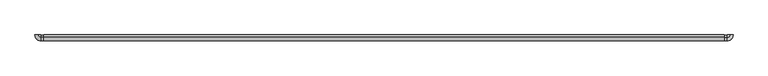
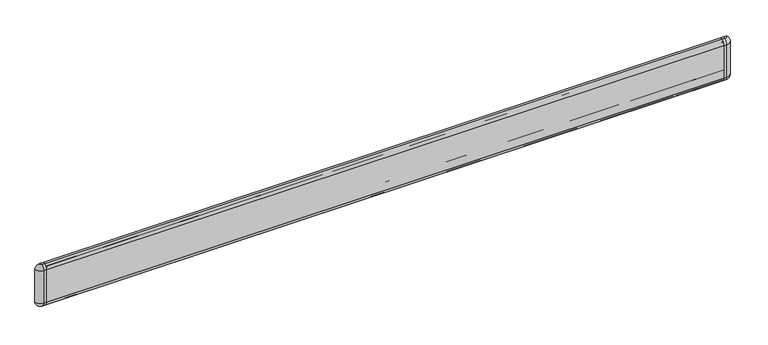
"""IFC4 building model written with IfcOpenShell, lengths in millimetres: railing geometry, Wall Guard-InPro-700-WG-Concrete."""

from ifc_helpers import new_model, si_unit, point, frame, origin, place, context, project, spatial, polyline, circle_curve, ellipse_curve, trimmed, source, transform, mapped, element, save
from ifc_brep_helpers import plane_surface, cylinder_surface, revolved_surface, advanced_brep


def railing_e686fe90(model_context):
    return source(origin(), model_context, "Body", "AdvancedBrep", [
        advanced_brep(
        [(-27364.509124, 14388.7263585, 904.7332938), (-27364.509124, 14390.7107335, 904.7332938), (-27364.509124, 14390.7107335, 727.2167062), (-27364.509124, 14388.7263585, 727.2167062), (-27364.509124, 14388.7263585, 720.2234269), (-27364.509124, 14371.963322, 726.6313462), (-27364.509124, 14373.2976795, 727.7904292), (-27364.509124, 14386.7419835, 721.9979037), (-27364.509124, 14386.7419835, 729.2010812), (-27364.509124, 14388.7263585, 729.2010812), (-27364.509124, 14388.7263585, 772.4962957), (-27364.509124, 14385.0706379, 772.4962957), (-27364.509124, 14385.0706379, 768.4007777), (-27364.509124, 14383.4109872, 768.4007777), (-27364.509124, 14383.4109872, 774.4806707), (-27364.509124, 14388.6724751, 774.4806707), (-27364.509124, 14388.6724751, 858.6025126), (-27364.509124, 14383.4109872, 858.6025126), (-27364.509124, 14383.4109872, 864.6280153), (-27364.509124, 14385.0706379, 864.6280153), (-27364.509124, 14385.0706379, 860.5868876), (-27364.509124, 14388.7263585, 860.5868876), (-27364.509124, 14388.7263585, 902.7489188), (-27364.509124, 14386.7419835, 902.7489188), (-27364.509124, 14386.7419835, 909.9520963), (-27364.509124, 14373.2976795, 904.1595708), (-27364.509124, 14371.963322, 905.3186537), (-27364.509124, 14388.7263585, 911.726573), (-24341.909124, 14388.7263585, 904.7332938), (-24341.909124, 14388.7263585, 911.726573), (-24341.909124, 14371.963322, 905.3186537), (-24341.909124, 14373.2976795, 904.1595708), (-24341.909124, 14386.7419835, 909.9520963), (-24341.909124, 14386.7419835, 902.7489188), (-24341.909124, 14388.7263585, 902.7489188), (-24341.909124, 14388.7263585, 860.5868876), (-24341.909124, 14385.0706379, 860.5868876), (-24341.909124, 14385.0706379, 864.6280153), (-24341.909124, 14383.4109872, 864.6280153), (-24341.909124, 14383.4109872, 858.6025126), (-24341.909124, 14388.6724751, 858.6025126), (-24341.909124, 14388.6724751, 774.4806707), (-24341.909124, 14383.4109872, 774.4806707), (-24341.909124, 14383.4109872, 768.4007777), (-24341.909124, 14385.0706379, 768.4007777), (-24341.909124, 14385.0706379, 772.4962957), (-24341.909124, 14388.7263585, 772.4962957), (-24341.909124, 14388.7263585, 729.2010812), (-24341.909124, 14386.7419835, 729.2010812), (-24341.909124, 14386.7419835, 721.9979037), (-24341.909124, 14373.2976795, 727.7904292), (-24341.909124, 14371.963322, 726.6313462), (-24341.909124, 14388.7263585, 720.2234269), (-24341.909124, 14388.7263585, 727.2167062), (-24341.909124, 14390.7107335, 727.2167062), (-24341.909124, 14390.7107335, 904.7332938)],
        [
            (0, 1),
            (1, 2),
            (2, 3),
            (3, 4),
            (4, 5, circle_curve(frame((-27364.509124, 14386.3451085, 739.1240129), z_axis=(-1.0, 0.0, 0.0), x_axis=(0.0, -1.0, 0.0)), 19.05)),
            (5, 6),
            (6, 7, circle_curve(frame((-27364.509124, 14386.7647006, 740.5488356), z_axis=(1.0, 0.0, 0.0), x_axis=(0.0, -1.0, 0.0)), 18.5509458)),
            (7, 8),
            (8, 9),
            (9, 10),
            (10, 11),
            (11, 12),
            (12, 13),
            (13, 14),
            (14, 15),
            (15, 16),
            (16, 17),
            (17, 18),
            (18, 19),
            (19, 20),
            (20, 21),
            (21, 22),
            (22, 23),
            (23, 24),
            (24, 25, circle_curve(frame((-27364.509124, 14386.7647006, 891.4011644), z_axis=(1.0, 0.0, 0.0), x_axis=(0.0, -1.0, 0.0)), 18.5509458)),
            (25, 26),
            (26, 27, circle_curve(frame((-27364.509124, 14386.3451085, 892.8259871), z_axis=(-1.0, 0.0, 0.0), x_axis=(0.0, -1.0, 0.0)), 19.05)),
            (27, 0),
            (28, 29),
            (29, 30, circle_curve(frame((-24341.909124, 14386.3451085, 892.8259871), z_axis=(1.0, 0.0, 0.0), x_axis=(0.0, -1.0, 0.0)), 19.05)),
            (30, 31),
            (31, 32, circle_curve(frame((-24341.909124, 14386.7647006, 891.4011644), z_axis=(-1.0, 0.0, 0.0), x_axis=(0.0, -1.0, 0.0)), 18.5509458)),
            (32, 33),
            (33, 34),
            (34, 35),
            (35, 36),
            (36, 37),
            (37, 38),
            (38, 39),
            (39, 40),
            (40, 41),
            (41, 42),
            (42, 43),
            (43, 44),
            (44, 45),
            (45, 46),
            (46, 47),
            (47, 48),
            (48, 49),
            (49, 50, circle_curve(frame((-24341.909124, 14386.7647006, 740.5488356), z_axis=(-1.0, 0.0, 0.0), x_axis=(0.0, -1.0, 0.0)), 18.5509458)),
            (50, 51),
            (51, 52, circle_curve(frame((-24341.909124, 14386.3451085, 739.1240129), z_axis=(1.0, 0.0, 0.0), x_axis=(0.0, -1.0, 0.0)), 19.05)),
            (52, 53),
            (53, 54),
            (54, 55),
            (55, 28),
            (0, 28),
            (55, 1),
            (54, 2),
            (53, 3),
            (52, 4),
            (51, 5),
            (50, 6),
            (49, 7),
            (48, 8),
            (47, 9),
            (46, 10),
            (45, 11),
            (44, 12),
            (43, 13),
            (42, 14),
            (41, 15),
            (40, 16),
            (39, 17),
            (38, 18),
            (37, 19),
            (36, 20),
            (35, 21),
            (34, 22),
            (33, 23),
            (32, 24),
            (31, 25),
            (30, 26),
            (29, 27),
        ],
        [
            plane_surface(frame((-27364.509124, 14390.7107335, 914.4), z_axis=(-1.0, 0.0, 0.0), x_axis=(0.0, 1.0, 0.0))),
            plane_surface(frame((-24341.909124, 14390.7107335, 914.4), z_axis=(1.0, 0.0, 0.0), x_axis=(0.0, 1.0, 0.0))),
            plane_surface(frame((-27364.509124, 14388.7263585, 904.7332938), z_axis=(0.0, 0.0, 1.0), x_axis=(1.0, 0.0, 0.0))),
            plane_surface(frame((-27364.509124, 14390.7107335, 904.7332938), z_axis=(0.0, 1.0, 0.0), x_axis=(1.0, 0.0, 0.0))),
            plane_surface(frame((-27364.509124, 14390.7107335, 727.2167062), z_axis=(0.0, 0.0, -1.0), x_axis=(1.0, 0.0, 0.0))),
            plane_surface(frame((-27364.509124, 14388.7263585, 727.2167062), z_axis=(0.0, 1.0, 0.0), x_axis=(1.0, 0.0, 0.0))),
            cylinder_surface(frame((-27364.509124, 14386.3451085, 739.1240129), z_axis=(-1.0, 0.0, 0.0), x_axis=(0.0, -1.0, 0.0)), 19.05),
            plane_surface(frame((-27364.509124, 14371.963322, 726.6313462), z_axis=(0.0, -0.6557830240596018, 0.7549494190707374), x_axis=(1.0, 0.0, 0.0))),
            revolved_surface(polyline([(-24341.909124, 14368.213754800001, 740.5488356), (-27364.509124, 14368.213754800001, 740.5488356)]), (-27364.509124, 14386.7647006, 740.5488356), (1.0, 0.0, 0.0)),
            plane_surface(frame((-27364.509124, 14386.7419835, 721.9979037), z_axis=(0.0, -1.0, 0.0), x_axis=(1.0, 0.0, 0.0))),
            plane_surface(frame((-27364.509124, 14386.7419835, 729.2010812), z_axis=(0.0, 0.0, 1.0), x_axis=(1.0, 0.0, 0.0))),
            plane_surface(frame((-27364.509124, 14388.7263585, 729.2010812), z_axis=(0.0, -1.0, 0.0), x_axis=(1.0, 0.0, 0.0))),
            plane_surface(frame((-27364.509124, 14388.7263585, 772.4962957), z_axis=(0.0, 0.0, -1.0), x_axis=(1.0, 0.0, 0.0))),
            plane_surface(frame((-27364.509124, 14385.0706379, 772.4962957), z_axis=(0.0, 1.0, 0.0), x_axis=(1.0, 0.0, 0.0))),
            plane_surface(frame((-27364.509124, 14385.0706379, 768.4007777), z_axis=(0.0, 0.0, -1.0), x_axis=(1.0, 0.0, 0.0))),
            plane_surface(frame((-27364.509124, 14383.4109872, 768.4007777), z_axis=(0.0, -1.0, 0.0), x_axis=(1.0, 0.0, 0.0))),
            plane_surface(frame((-27364.509124, 14383.4109872, 774.4806707), z_axis=(0.0, 0.0, 1.0), x_axis=(1.0, 0.0, 0.0))),
            plane_surface(frame((-27364.509124, 14388.6724751, 774.4806707), z_axis=(0.0, -1.0, 0.0), x_axis=(1.0, 0.0, 0.0))),
            plane_surface(frame((-27364.509124, 14388.6724751, 858.6025126), z_axis=(0.0, 0.0, -1.0), x_axis=(1.0, 0.0, 0.0))),
            plane_surface(frame((-27364.509124, 14383.4109872, 858.6025126), z_axis=(0.0, -1.0, 0.0), x_axis=(1.0, 0.0, 0.0))),
            plane_surface(frame((-27364.509124, 14383.4109872, 864.6280153), z_axis=(0.0, 0.0, 1.0), x_axis=(1.0, 0.0, 0.0))),
            plane_surface(frame((-27364.509124, 14385.0706379, 864.6280153), z_axis=(0.0, 1.0, 0.0), x_axis=(1.0, 0.0, 0.0))),
            plane_surface(frame((-27364.509124, 14385.0706379, 860.5868876), z_axis=(0.0, 0.0, 1.0), x_axis=(1.0, 0.0, 0.0))),
            plane_surface(frame((-27364.509124, 14388.7263585, 860.5868876), z_axis=(0.0, -1.0, 0.0), x_axis=(1.0, 0.0, 0.0))),
            plane_surface(frame((-27364.509124, 14388.7263585, 902.7489188), z_axis=(0.0, 0.0, -1.0), x_axis=(1.0, 0.0, 0.0))),
            plane_surface(frame((-27364.509124, 14386.7419835, 902.7489188), z_axis=(0.0, -1.0, 0.0), x_axis=(1.0, 0.0, 0.0))),
            revolved_surface(polyline([(-24341.909124, 14368.213754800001, 891.4011644), (-27364.509124, 14368.213754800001, 891.4011644)]), (-27364.509124, 14386.7647006, 891.4011644), (1.0, 0.0, 0.0)),
            plane_surface(frame((-27364.509124, 14373.2976795, 904.1595708), z_axis=(0.0, -0.6557830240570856, -0.754949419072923), x_axis=(1.0, 0.0, 0.0))),
            cylinder_surface(frame((-27364.509124, 14386.3451085, 892.8259871), z_axis=(-1.0, 0.0, 0.0), x_axis=(0.0, -1.0, 0.0)), 19.05),
            plane_surface(frame((-27364.509124, 14388.7263585, 911.726573), z_axis=(0.0, 1.0, 0.0), x_axis=(1.0, 0.0, 0.0))),
        ],
        [
            (0, [[1, 2, 3, 4, 5, 6, 7, 8, 9, 10, 11, 12, 13, 14, 15, 16, 17, 18, 19, 20, 21, 22, 23, 24, 25, 26, 27, 28]]),
            (1, [[29, 30, 31, 32, 33, 34, 35, 36, 37, 38, 39, 40, 41, 42, 43, 44, 45, 46, 47, 48, 49, 50, 51, 52, 53, 54, 55, 56]]),
            (2, [[-1, 57, -56, 58]]),
            (3, [[-2, -58, -55, 59]]),
            (4, [[-3, -59, -54, 60]]),
            (5, [[-4, -60, -53, 61]]),
            (6, [[-5, -61, -52, 62]]),
            (7, [[-6, -62, -51, 63]]),
            (8, [[-7, -63, -50, 64]]),
            (9, [[-8, -64, -49, 65]]),
            (10, [[-9, -65, -48, 66]]),
            (11, [[-10, -66, -47, 67]]),
            (12, [[-11, -67, -46, 68]]),
            (13, [[-12, -68, -45, 69]]),
            (14, [[-13, -69, -44, 70]]),
            (15, [[-14, -70, -43, 71]]),
            (16, [[-15, -71, -42, 72]]),
            (17, [[-16, -72, -41, 73]]),
            (18, [[-17, -73, -40, 74]]),
            (19, [[-18, -74, -39, 75]]),
            (20, [[-19, -75, -38, 76]]),
            (21, [[-20, -76, -37, 77]]),
            (22, [[-21, -77, -36, 78]]),
            (23, [[-22, -78, -35, 79]]),
            (24, [[-23, -79, -34, 80]]),
            (25, [[-24, -80, -33, 81]]),
            (26, [[-25, -81, -32, 82]]),
            (27, [[-26, -82, -31, 83]]),
            (28, [[-27, -83, -30, 84]]),
            (29, [[-28, -84, -29, -57]]),
        ],
    ),
        advanced_brep(
        [(-27364.509124, 14384.5191525, 865.3953096), (-27364.509124, 14369.2282976, 847.8484287), (-27364.509124, 14369.2282976, 785.2347547), (-27364.509124, 14383.1181212, 767.7077342), (-27364.509124, 14384.564088, 767.6994357), (-27364.509124, 14385.3623933, 768.4931726), (-27364.509124, 14385.3623933, 772.40608), (-27364.509124, 14387.0550129, 772.40608), (-27364.509124, 14387.0550129, 766.4513754), (-27364.509124, 14386.3886739, 765.7415917), (-27364.509124, 14383.0482703, 765.7415917), (-27364.509124, 14367.2540073, 784.5100726), (-27364.509124, 14367.2540073, 848.5731108), (-27364.509124, 14383.0482703, 867.3415917), (-27364.509124, 14386.3886737, 867.3415917), (-27364.509124, 14387.0550129, 866.6318079), (-27364.509124, 14387.0550129, 860.6771034), (-27364.509124, 14385.3623933, 860.6771034), (-27364.509124, 14385.3623933, 864.603104), (-24341.909124, 14384.5191525, 865.3953096), (-24341.909124, 14385.3623933, 864.603104), (-24341.909124, 14385.3623933, 860.6771034), (-24341.909124, 14387.0550129, 860.6771034), (-24341.909124, 14387.0550129, 866.6318079), (-24341.909124, 14386.3886737, 867.3415917), (-24341.909124, 14383.0482703, 867.3415917), (-24341.909124, 14367.2540073, 848.5731108), (-24341.909124, 14367.2540073, 784.5100726), (-24341.909124, 14383.0482703, 765.7415917), (-24341.909124, 14386.3886739, 765.7415917), (-24341.909124, 14387.0550129, 766.4513754), (-24341.909124, 14387.0550129, 772.40608), (-24341.909124, 14385.3623933, 772.40608), (-24341.909124, 14385.3623933, 768.4931726), (-24341.909124, 14384.564088, 767.6994357), (-24341.909124, 14383.1181212, 767.7077342), (-24341.909124, 14369.2282976, 785.2347547), (-24341.909124, 14369.2282976, 847.8484287)],
        [
            (0, 1, circle_curve(frame((-27364.509124, 14385.5389853, 849.070713), z_axis=(1.0, 0.0, 0.0), x_axis=(0.0, -1.0, 0.0)), 16.3564211)),
            (1, 2),
            (2, 3, circle_curve(frame((-27364.509124, 14385.7856433, 784.0889117), z_axis=(1.0, 0.0, 0.0), x_axis=(0.0, -1.0, 0.0)), 16.596947)),
            (3, 4),
            (4, 5, circle_curve(frame((-27364.509124, 14384.5686433, 768.4931726), z_axis=(1.0, 0.0, 0.0), x_axis=(0.0, -1.0, 0.0)), 0.79375)),
            (5, 6),
            (6, 7),
            (7, 8),
            (8, 9, circle_curve(frame((-27364.509124, 14386.3438129, 766.4513754), z_axis=(-1.0, 0.0, 0.0), x_axis=(0.0, -1.0, 0.0)), 0.7112)),
            (9, 10),
            (10, 11, circle_curve(frame((-27364.509124, 14385.5987975, 783.9178633), z_axis=(-1.0, 0.0, 0.0), x_axis=(0.0, -1.0, 0.0)), 18.3543466)),
            (11, 12),
            (12, 13, circle_curve(frame((-27364.509124, 14385.5987975, 849.1653201), z_axis=(-1.0, 0.0, 0.0), x_axis=(0.0, -1.0, 0.0)), 18.3543466)),
            (13, 14),
            (14, 15, circle_curve(frame((-27364.509124, 14386.3438129, 866.6318079), z_axis=(-1.0, 0.0, 0.0), x_axis=(0.0, -1.0, 0.0)), 0.7112)),
            (15, 16),
            (16, 17),
            (17, 18),
            (18, 0, circle_curve(frame((-27364.509124, 14384.5686433, 864.603104), z_axis=(1.0, 0.0, 0.0), x_axis=(0.0, -1.0, 0.0)), 0.79375)),
            (19, 20, circle_curve(frame((-24341.909124, 14384.5686433, 864.603104), z_axis=(-1.0, 0.0, 0.0), x_axis=(0.0, -1.0, 0.0)), 0.79375)),
            (20, 21),
            (21, 22),
            (22, 23),
            (23, 24, circle_curve(frame((-24341.909124, 14386.3438129, 866.6318079), z_axis=(1.0, 0.0, 0.0), x_axis=(0.0, -1.0, 0.0)), 0.7112)),
            (24, 25),
            (25, 26, circle_curve(frame((-24341.909124, 14385.5987975, 849.1653201), z_axis=(1.0, 0.0, 0.0), x_axis=(0.0, -1.0, 0.0)), 18.3543466)),
            (26, 27),
            (27, 28, circle_curve(frame((-24341.909124, 14385.5987975, 783.9178633), z_axis=(1.0, 0.0, 0.0), x_axis=(0.0, -1.0, 0.0)), 18.3543466)),
            (28, 29),
            (29, 30, circle_curve(frame((-24341.909124, 14386.3438129, 766.4513754), z_axis=(1.0, 0.0, 0.0), x_axis=(0.0, -1.0, 0.0)), 0.7112)),
            (30, 31),
            (31, 32),
            (32, 33),
            (33, 34, circle_curve(frame((-24341.909124, 14384.5686433, 768.4931726), z_axis=(-1.0, 0.0, 0.0), x_axis=(0.0, -1.0, 0.0)), 0.79375)),
            (34, 35),
            (35, 36, circle_curve(frame((-24341.909124, 14385.7856433, 784.0889117), z_axis=(-1.0, 0.0, 0.0), x_axis=(0.0, -1.0, 0.0)), 16.596947)),
            (36, 37),
            (37, 19, circle_curve(frame((-24341.909124, 14385.5389853, 849.070713), z_axis=(-1.0, 0.0, 0.0), x_axis=(0.0, -1.0, 0.0)), 16.3564211)),
            (0, 19),
            (37, 1),
            (36, 2),
            (35, 3),
            (34, 4),
            (33, 5),
            (32, 6),
            (31, 7),
            (30, 8),
            (29, 9),
            (28, 10),
            (27, 11),
            (26, 12),
            (25, 13),
            (24, 14),
            (23, 15),
            (22, 16),
            (21, 17),
            (20, 18),
        ],
        [
            plane_surface(frame((-27364.509124, 14390.7107335, 914.4), z_axis=(-1.0, 0.0, 0.0), x_axis=(0.0, 1.0, 0.0))),
            plane_surface(frame((-24341.909124, 14390.7107335, 914.4), z_axis=(1.0, 0.0, 0.0), x_axis=(0.0, 1.0, 0.0))),
            revolved_surface(polyline([(-24341.909124, 14369.1825642, 849.070713), (-27364.509124, 14369.1825642, 849.070713)]), (-27364.509124, 14385.5389853, 849.070713), (1.0, 0.0, 0.0)),
            plane_surface(frame((-27364.509124, 14369.2282976, 847.8484287), z_axis=(0.0, 1.0, 0.0), x_axis=(1.0, 0.0, 0.0))),
            revolved_surface(polyline([(-24341.909124, 14369.1886963, 784.0889117), (-27364.509124, 14369.1886963, 784.0889117)]), (-27364.509124, 14385.7856433, 784.0889117), (1.0, 0.0, 0.0)),
            plane_surface(frame((-27364.509124, 14383.1181212, 767.7077342), z_axis=(0.0, 0.005738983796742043, 0.9999835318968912), x_axis=(1.0, 0.0, 0.0))),
            revolved_surface(polyline([(-24341.909124, 14383.774893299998, 768.4931726), (-27364.509124, 14383.774893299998, 768.4931726)]), (-27364.509124, 14384.5686433, 768.4931726), (1.0, 0.0, 0.0)),
            plane_surface(frame((-27364.509124, 14385.3623933, 768.4931726), z_axis=(0.0, -1.0, 0.0), x_axis=(1.0, 0.0, 0.0))),
            plane_surface(frame((-27364.509124, 14385.3623933, 772.40608), z_axis=(0.0, 0.0, 1.0), x_axis=(1.0, 0.0, 0.0))),
            plane_surface(frame((-27364.509124, 14387.0550129, 772.40608), z_axis=(0.0, 1.0, 0.0), x_axis=(1.0, 0.0, 0.0))),
            cylinder_surface(frame((-27364.509124, 14386.3438129, 766.4513754), z_axis=(-1.0, 0.0, 0.0), x_axis=(0.0, -1.0, 0.0)), 0.7112),
            plane_surface(frame((-27364.509124, 14386.3886739, 765.7415917), z_axis=(0.0, 0.0, -1.0), x_axis=(1.0, 0.0, 0.0))),
            cylinder_surface(frame((-27364.509124, 14385.5987975, 783.9178633), z_axis=(-1.0, 0.0, 0.0), x_axis=(0.0, -1.0, 0.0)), 18.3543466),
            plane_surface(frame((-27364.509124, 14367.2540073, 784.5100726), z_axis=(0.0, -1.0, 0.0), x_axis=(1.0, 0.0, 0.0))),
            cylinder_surface(frame((-27364.509124, 14385.5987975, 849.1653201), z_axis=(-1.0, 0.0, 0.0), x_axis=(0.0, -1.0, 0.0)), 18.3543466),
            plane_surface(frame((-27364.509124, 14383.0482703, 867.3415917), z_axis=(0.0, 0.0, 1.0), x_axis=(1.0, 0.0, 0.0))),
            cylinder_surface(frame((-27364.509124, 14386.3438129, 866.6318079), z_axis=(-1.0, 0.0, 0.0), x_axis=(0.0, -1.0, 0.0)), 0.7112),
            plane_surface(frame((-27364.509124, 14387.0550129, 866.6318079), z_axis=(0.0, 1.0, 0.0), x_axis=(1.0, 0.0, 0.0))),
            plane_surface(frame((-27364.509124, 14387.0550129, 860.6771034), z_axis=(0.0, 0.0, -1.0), x_axis=(1.0, 0.0, 0.0))),
            plane_surface(frame((-27364.509124, 14385.3623933, 860.6771034), z_axis=(0.0, -1.0, 0.0), x_axis=(1.0, 0.0, 0.0))),
            revolved_surface(polyline([(-24341.909124, 14383.774893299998, 864.603104), (-27364.509124, 14383.774893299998, 864.603104)]), (-27364.509124, 14384.5686433, 864.603104), (1.0, 0.0, 0.0)),
        ],
        [
            (0, [[1, 2, 3, 4, 5, 6, 7, 8, 9, 10, 11, 12, 13, 14, 15, 16, 17, 18, 19]]),
            (1, [[20, 21, 22, 23, 24, 25, 26, 27, 28, 29, 30, 31, 32, 33, 34, 35, 36, 37, 38]]),
            (2, [[-1, 39, -38, 40]]),
            (3, [[-2, -40, -37, 41]]),
            (4, [[-3, -41, -36, 42]]),
            (5, [[-4, -42, -35, 43]]),
            (6, [[-5, -43, -34, 44]]),
            (7, [[-6, -44, -33, 45]]),
            (8, [[-7, -45, -32, 46]]),
            (9, [[-8, -46, -31, 47]]),
            (10, [[-9, -47, -30, 48]]),
            (11, [[-10, -48, -29, 49]]),
            (12, [[-11, -49, -28, 50]]),
            (13, [[-12, -50, -27, 51]]),
            (14, [[-13, -51, -26, 52]]),
            (15, [[-14, -52, -25, 53]]),
            (16, [[-15, -53, -24, 54]]),
            (17, [[-16, -54, -23, 55]]),
            (18, [[-17, -55, -22, 56]]),
            (19, [[-18, -56, -21, 57]]),
            (20, [[-19, -57, -20, -39]]),
        ],
    ),
        advanced_brep(
        [(-27364.509124, 14380.4030525, 718.9463791), (-27364.509124, 14365.3107335, 739.1240129), (-27364.509124, 14365.3107335, 892.8259871), (-27364.509124, 14380.4030525, 913.0036208), (-27364.509124, 14390.7107335, 913.5724414), (-27364.509124, 14390.7107335, 908.6382347), (-27364.509124, 14388.7263585, 908.4646244), (-27364.509124, 14388.7263585, 911.8425758), (-27364.509124, 14380.9636238, 911.1000707), (-27364.509124, 14371.963322, 905.3186537), (-27364.509124, 14367.2951085, 892.8259871), (-27364.509124, 14367.2951085, 739.1240129), (-27364.509124, 14371.963322, 726.6313462), (-27364.509124, 14380.9636238, 720.8499295), (-27364.509124, 14388.7263585, 720.1074242), (-27364.509124, 14388.7263585, 723.4853755), (-27364.509124, 14390.7107335, 723.3117652), (-27364.509124, 14390.7107335, 718.3775586), (-24341.909124, 14380.4030525, 718.946379), (-24341.909124, 14390.7107335, 718.3775586), (-24341.909124, 14390.7107335, 723.3117652), (-24341.909124, 14388.7263585, 723.4853755), (-24341.909124, 14388.7263585, 720.1074242), (-24341.909124, 14380.9636238, 720.8499293), (-24341.909124, 14371.963322, 726.6313462), (-24341.909124, 14367.2951085, 739.1240129), (-24341.909124, 14367.2951085, 892.8259871), (-24341.909124, 14371.963322, 905.3186537), (-24341.909124, 14380.9636238, 911.1000705), (-24341.909124, 14388.7263585, 911.8425758), (-24341.909124, 14388.7263585, 908.4646244), (-24341.909124, 14390.7107335, 908.6382347), (-24341.909124, 14390.7107335, 913.5724414), (-24341.909124, 14380.4030525, 913.003621), (-24341.909124, 14365.3107335, 892.8259871), (-24341.909124, 14365.3107335, 739.1240129)],
        [
            (0, 1, circle_curve(frame((-27364.509124, 14386.3451085, 739.1240129), z_axis=(-1.0, 0.0, 0.0), x_axis=(0.0, -1.0, 0.0)), 21.034375)),
            (1, 2),
            (2, 3, circle_curve(frame((-27364.509124, 14386.3451085, 892.8259871), z_axis=(-1.0, 0.0, 0.0), x_axis=(0.0, -1.0, 0.0)), 21.034375)),
            (3, 4, circle_curve(frame((-27364.509124, 14386.7647006, 891.4011644), z_axis=(-1.0, 0.0, 0.0), x_axis=(0.0, -1.0, 0.0)), 22.5196958)),
            (4, 5),
            (5, 6),
            (6, 7),
            (7, 8, circle_curve(frame((-27364.509124, 14386.7647006, 891.4011644), z_axis=(1.0, 0.0, 0.0), x_axis=(0.0, -1.0, 0.0)), 20.5353208)),
            (8, 9, circle_curve(frame((-27364.509124, 14386.3451085, 892.8259871), z_axis=(1.0, 0.0, 0.0), x_axis=(0.0, -1.0, 0.0)), 19.05)),
            (9, 10, circle_curve(frame((-27364.509124, 14386.3451085, 892.8259871), z_axis=(1.0, 0.0, 0.0), x_axis=(0.0, -1.0, 0.0)), 19.05)),
            (10, 11),
            (11, 12, circle_curve(frame((-27364.509124, 14386.3451085, 739.1240129), z_axis=(1.0, 0.0, 0.0), x_axis=(0.0, -1.0, 0.0)), 19.05)),
            (12, 13, circle_curve(frame((-27364.509124, 14386.3451085, 739.1240129), z_axis=(1.0, 0.0, 0.0), x_axis=(0.0, -1.0, 0.0)), 19.05)),
            (13, 14, circle_curve(frame((-27364.509124, 14386.7647006, 740.5488356), z_axis=(1.0, 0.0, 0.0), x_axis=(0.0, -1.0, 0.0)), 20.5353208)),
            (14, 15),
            (15, 16),
            (16, 17),
            (17, 0, circle_curve(frame((-27364.509124, 14386.7647006, 740.5488356), z_axis=(-1.0, 0.0, 0.0), x_axis=(0.0, -1.0, 0.0)), 22.5196958)),
            (18, 19, circle_curve(frame((-24341.909124, 14386.7647006, 740.5488356), z_axis=(1.0, 0.0, 0.0), x_axis=(0.0, -1.0, 0.0)), 22.5196958)),
            (19, 20),
            (20, 21),
            (21, 22),
            (22, 23, circle_curve(frame((-24341.909124, 14386.7647006, 740.5488356), z_axis=(-1.0, 0.0, 0.0), x_axis=(0.0, -1.0, 0.0)), 20.5353208)),
            (23, 24, circle_curve(frame((-24341.909124, 14386.3451085, 739.1240129), z_axis=(-1.0, 0.0, 0.0), x_axis=(0.0, -1.0, 0.0)), 19.05)),
            (24, 25, circle_curve(frame((-24341.909124, 14386.3451085, 739.1240129), z_axis=(-1.0, 0.0, 0.0), x_axis=(0.0, -1.0, 0.0)), 19.05)),
            (25, 26),
            (26, 27, circle_curve(frame((-24341.909124, 14386.3451085, 892.8259871), z_axis=(-1.0, 0.0, 0.0), x_axis=(0.0, -1.0, 0.0)), 19.05)),
            (27, 28, circle_curve(frame((-24341.909124, 14386.3451085, 892.8259871), z_axis=(-1.0, 0.0, 0.0), x_axis=(0.0, -1.0, 0.0)), 19.05)),
            (28, 29, circle_curve(frame((-24341.909124, 14386.7647006, 891.4011644), z_axis=(-1.0, 0.0, 0.0), x_axis=(0.0, -1.0, 0.0)), 20.5353208)),
            (29, 30),
            (30, 31),
            (31, 32),
            (32, 33, circle_curve(frame((-24341.909124, 14386.7647006, 891.4011644), z_axis=(1.0, 0.0, 0.0), x_axis=(0.0, -1.0, 0.0)), 22.5196958)),
            (33, 34, circle_curve(frame((-24341.909124, 14386.3451085, 892.8259871), z_axis=(1.0, 0.0, 0.0), x_axis=(0.0, -1.0, 0.0)), 21.034375)),
            (34, 35),
            (35, 18, circle_curve(frame((-24341.909124, 14386.3451085, 739.1240129), z_axis=(1.0, 0.0, 0.0), x_axis=(0.0, -1.0, 0.0)), 21.034375)),
            (0, 18),
            (35, 1),
            (34, 2),
            (33, 3),
            (32, 4),
            (31, 5),
            (30, 6),
            (29, 7),
            (28, 8),
            (27, 9),
            (26, 10),
            (25, 11),
            (24, 12),
            (23, 13),
            (22, 14),
            (21, 15),
            (20, 16),
            (19, 17),
        ],
        [
            plane_surface(frame((-27364.509124, 14390.7107335, 914.4), z_axis=(-1.0, 0.0, 0.0), x_axis=(0.0, 1.0, 0.0))),
            plane_surface(frame((-24341.909124, 14390.7107335, 914.4), z_axis=(1.0, 0.0, 0.0), x_axis=(0.0, 1.0, 0.0))),
            cylinder_surface(frame((-27364.509124, 14386.3451085, 739.1240129), z_axis=(-1.0, 0.0, 0.0), x_axis=(0.0, -1.0, 0.0)), 21.034375),
            plane_surface(frame((-27364.509124, 14365.3107335, 739.1240129), z_axis=(0.0, -1.0, 0.0), x_axis=(1.0, 0.0, 0.0))),
            cylinder_surface(frame((-27364.509124, 14386.3451085, 892.8259871), z_axis=(-1.0, 0.0, 0.0), x_axis=(0.0, -1.0, 0.0)), 21.034375),
            cylinder_surface(frame((-27364.509124, 14386.7647006, 891.4011644), z_axis=(-1.0, 0.0, 0.0), x_axis=(0.0, -1.0, 0.0)), 22.5196958),
            plane_surface(frame((-27364.509124, 14390.7107335, 913.5724414), z_axis=(0.0, 1.0, 0.0), x_axis=(1.0, 0.0, 0.0))),
            plane_surface(frame((-27364.509124, 14390.7107335, 908.6382347), z_axis=(0.0, 0.08715574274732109, -0.9961946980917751), x_axis=(1.0, 0.0, 0.0))),
            plane_surface(frame((-27364.509124, 14388.7263585, 908.4646244), z_axis=(0.0, -1.0, 0.0), x_axis=(1.0, 0.0, 0.0))),
            revolved_surface(polyline([(-24341.909124, 14366.229379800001, 891.4011644), (-27364.509124, 14366.229379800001, 891.4011644)]), (-27364.509124, 14386.7647006, 891.4011644), (1.0, 0.0, 0.0)),
            revolved_surface(polyline([(-24341.909124, 14367.2951085, 892.8259871), (-27364.509124, 14367.2951085, 892.8259871)]), (-27364.509124, 14386.3451085, 892.8259871), (1.0, 0.0, 0.0)),
            plane_surface(frame((-27364.509124, 14367.2951085, 892.8259871), z_axis=(0.0, 1.0, 0.0), x_axis=(1.0, 0.0, 0.0))),
            revolved_surface(polyline([(-24341.909124, 14367.2951085, 739.1240129), (-27364.509124, 14367.2951085, 739.1240129)]), (-27364.509124, 14386.3451085, 739.1240129), (1.0, 0.0, 0.0)),
            revolved_surface(polyline([(-24341.909124, 14366.229379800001, 740.5488356), (-27364.509124, 14366.229379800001, 740.5488356)]), (-27364.509124, 14386.7647006, 740.5488356), (1.0, 0.0, 0.0)),
            plane_surface(frame((-27364.509124, 14388.7263585, 720.1074242), z_axis=(0.0, -1.0, 0.0), x_axis=(1.0, 0.0, 0.0))),
            plane_surface(frame((-27364.509124, 14388.7263585, 723.4853755), z_axis=(0.0, 0.08715574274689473, 0.9961946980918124), x_axis=(1.0, 0.0, 0.0))),
            plane_surface(frame((-27364.509124, 14390.7107335, 723.3117652), z_axis=(0.0, 1.0, 0.0), x_axis=(1.0, 0.0, 0.0))),
            cylinder_surface(frame((-27364.509124, 14386.7647006, 740.5488356), z_axis=(-1.0, 0.0, 0.0), x_axis=(0.0, -1.0, 0.0)), 22.5196958),
        ],
        [
            (0, [[1, 2, 3, 4, 5, 6, 7, 8, 9, 10, 11, 12, 13, 14, 15, 16, 17, 18]]),
            (1, [[19, 20, 21, 22, 23, 24, 25, 26, 27, 28, 29, 30, 31, 32, 33, 34, 35, 36]]),
            (2, [[-1, 37, -36, 38]]),
            (3, [[-2, -38, -35, 39]]),
            (4, [[-3, -39, -34, 40]]),
            (5, [[-4, -40, -33, 41]]),
            (6, [[-5, -41, -32, 42]]),
            (7, [[-6, -42, -31, 43]]),
            (8, [[-7, -43, -30, 44]]),
            (9, [[-8, -44, -29, 45]]),
            (10, [[-9, -45, -28, 46]]),
            (10, [[-10, -46, -27, 47]]),
            (11, [[-11, -47, -26, 48]]),
            (12, [[-12, -48, -25, 49]]),
            (12, [[-13, -49, -24, 50]]),
            (13, [[-14, -50, -23, 51]]),
            (14, [[-15, -51, -22, 52]]),
            (15, [[-16, -52, -21, 53]]),
            (16, [[-17, -53, -20, 54]]),
            (17, [[-18, -54, -19, -37]]),
        ],
    ),
        advanced_brep(
        [(-24327.7394675, 14390.7107335, 718.291713), (-24327.7394675, 14390.7107335, 913.6582866), (-24317.938695, 14390.7107335, 913.0006001), (-24302.856624, 14390.7107335, 892.8259871), (-24302.856624, 14390.7107335, 739.1240128), (-24317.9489431, 14390.7107335, 718.946379), (-24328.256624, 14390.193577, 913.6582866), (-24328.256624, 14390.193577, 718.291713), (-24328.256624, 14380.3928044, 913.0006001), (-24328.256624, 14365.3107335, 892.8259871), (-24328.256624, 14365.3107335, 739.1240128), (-24328.256624, 14380.4030525, 718.946379), (-24341.909124, 14390.193577, 718.291713), (-24341.909124, 14380.4030525, 718.946379), (-24341.909124, 14365.3107335, 739.1240128), (-24341.909124, 14365.3107335, 892.8259871), (-24341.909124, 14380.3928044, 913.0006001), (-24341.909124, 14390.193577, 913.6582866)],
        [
            (0, 1),
            (1, 2, circle_curve(frame((-24324.3105911, 14390.7107335, 891.4011644), z_axis=(0.0, 1.0, 0.0), x_axis=(1.0, 0.0, 0.0)), 22.5196954)),
            (2, 3, circle_curve(frame((-24323.890999, 14390.7107335, 892.8259871), z_axis=(0.0, 1.0, 0.0), x_axis=(1.0, 0.0, 0.0)), 21.034375)),
            (3, 4),
            (4, 5, circle_curve(frame((-24323.8909991, 14390.7107335, 739.1240128), z_axis=(0.0, 1.0, 0.0), x_axis=(1.0, 0.0, 0.0)), 21.0343751)),
            (5, 0, circle_curve(frame((-24324.310591, 14390.7107335, 740.5488346), z_axis=(0.0, 1.0, 0.0), x_axis=(1.0, 0.0, 0.0)), 22.5196948)),
            (6, 1, circle_curve(frame((-24328.256624, 14390.7107335, 913.6582866), z_axis=(0.0, 0.0, 1.0), x_axis=(1.0, 0.0, 0.0)), 0.5171565)),
            (0, 7, circle_curve(frame((-24328.256624, 14390.7107335, 718.291713), z_axis=(0.0, 0.0, -1.0), x_axis=(1.0, 0.0, 0.0)), 0.5171565)),
            (7, 6),
            (8, 2, circle_curve(frame((-24328.256624, 14390.7107335, 913.0006001), z_axis=(0.0, 0.0, 1.0), x_axis=(1.0, 0.0, 0.0)), 10.317929)),
            (6, 8, circle_curve(frame((-24328.256624, 14386.7647006, 891.4011644), z_axis=(1.0, 0.0, 0.0), x_axis=(0.0, -1.0, 0.0)), 22.5196954)),
            (9, 3, circle_curve(frame((-24328.256624, 14390.7107335, 892.8259871), z_axis=(0.0, 0.0, 1.0), x_axis=(1.0, 0.0, 0.0)), 25.4)),
            (8, 9, circle_curve(frame((-24328.256624, 14386.3451085, 892.8259871), z_axis=(1.0, 0.0, 0.0), x_axis=(0.0, -1.0, 0.0)), 21.034375)),
            (10, 4, circle_curve(frame((-24328.256624, 14390.7107335, 739.1240128), z_axis=(0.0, 0.0, 1.0), x_axis=(1.0, 0.0, 0.0)), 25.4)),
            (9, 10),
            (11, 5, circle_curve(frame((-24328.256624, 14390.7107335, 718.946379), z_axis=(0.0, 0.0, 1.0), x_axis=(1.0, 0.0, 0.0)), 10.3076809)),
            (10, 11, circle_curve(frame((-24328.256624, 14386.3451086, 739.1240128), z_axis=(1.0, 0.0, 0.0), x_axis=(0.0, -1.0, 0.0)), 21.0343751)),
            (11, 7, circle_curve(frame((-24328.256624, 14386.7647005, 740.5488346), z_axis=(1.0, 0.0, 0.0), x_axis=(0.0, -1.0, 0.0)), 22.5196948)),
            (12, 13, circle_curve(frame((-24341.909124, 14386.7647005, 740.5488346), z_axis=(-1.0, 0.0, 0.0), x_axis=(0.0, -1.0, 0.0)), 22.5196948)),
            (13, 14, circle_curve(frame((-24341.909124, 14386.3451086, 739.1240128), z_axis=(-1.0, 0.0, 0.0), x_axis=(0.0, -1.0, 0.0)), 21.0343751)),
            (14, 15),
            (15, 16, circle_curve(frame((-24341.909124, 14386.3451085, 892.8259871), z_axis=(-1.0, 0.0, 0.0), x_axis=(0.0, -1.0, 0.0)), 21.034375)),
            (16, 17, circle_curve(frame((-24341.909124, 14386.7647006, 891.4011644), z_axis=(-1.0, 0.0, 0.0), x_axis=(0.0, -1.0, 0.0)), 22.5196954)),
            (17, 12),
            (7, 12),
            (17, 6),
            (16, 8),
            (15, 9),
            (14, 10),
            (13, 11),
        ],
        [
            plane_surface(frame((-24305.396624, 14390.7107335, 914.4), z_axis=(0.0, 1.0, 0.0), x_axis=(0.0, 0.0, 1.0))),
            revolved_surface(polyline([(-24327.739467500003, 14390.7107335, 718.291713), (-24327.739467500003, 14390.7107335, 913.6582866)]), (-24328.256624, 14390.7107335, 914.4), (0.0, 0.0, -1.0)),
            revolved_surface(trimmed(ellipse_curve(frame((-24324.3105911, 14390.7107335, 891.4011644), z_axis=(0.0, 1.0, 0.0), x_axis=(1.0, 0.0, 0.0)), 22.5196954, 22.5196954), [point((-24327.7394675, 14390.7107335, 913.6582866))], [point((-24317.938695, 14390.7107335, 913.0006001))], True, "CARTESIAN"), (-24328.256624, 14390.7107335, 914.4), (0.0, 0.0, -1.0)),
            revolved_surface(trimmed(ellipse_curve(frame((-24323.890999, 14390.7107335, 892.8259871), z_axis=(0.0, 1.0, 0.0), x_axis=(1.0, 0.0, 0.0)), 21.034375, 21.034375), [point((-24317.938695, 14390.7107335, 913.0006001))], [point((-24302.856624, 14390.7107335, 892.8259871))], True, "CARTESIAN"), (-24328.256624, 14390.7107335, 914.4), (0.0, 0.0, -1.0)),
            cylinder_surface(frame((-24328.256624, 14390.7107335, 914.4), z_axis=(0.0, 0.0, -1.0), x_axis=(1.0, 0.0, 0.0)), 25.4),
            revolved_surface(trimmed(ellipse_curve(frame((-24323.8909991, 14390.7107335, 739.1240128), z_axis=(0.0, 1.0, 0.0), x_axis=(1.0, 0.0, 0.0)), 21.0343751, 21.0343751), [point((-24302.856624, 14390.7107335, 739.1240128))], [point((-24317.9489431, 14390.7107335, 718.946379))], True, "CARTESIAN"), (-24328.256624, 14390.7107335, 914.4), (0.0, 0.0, -1.0)),
            revolved_surface(trimmed(ellipse_curve(frame((-24324.310591, 14390.7107335, 740.5488346), z_axis=(0.0, 1.0, 0.0), x_axis=(1.0, 0.0, 0.0)), 22.5196948, 22.5196948), [point((-24317.9489431, 14390.7107335, 718.946379))], [point((-24327.7394675, 14390.7107335, 718.291713))], True, "CARTESIAN"), (-24328.256624, 14390.7107335, 914.4), (0.0, 0.0, -1.0)),
            plane_surface(frame((-24341.909124, 14367.8507335, 914.4), z_axis=(-1.0, 0.0, 0.0), x_axis=(0.0, 0.0, 1.0))),
            plane_surface(frame((-24328.256624, 14390.193577, 718.291713), z_axis=(0.0, 1.0, 0.0), x_axis=(-1.0, 0.0, 0.0))),
            cylinder_surface(frame((-24328.256624, 14386.7647006, 891.4011644), z_axis=(1.0, 0.0, 0.0), x_axis=(0.0, -1.0, 0.0)), 22.5196954),
            cylinder_surface(frame((-24328.256624, 14386.3451085, 892.8259871), z_axis=(1.0, 0.0, 0.0), x_axis=(0.0, -1.0, 0.0)), 21.034375),
            plane_surface(frame((-24328.256624, 14365.3107335, 892.8259871), z_axis=(0.0, -1.0, 0.0), x_axis=(-1.0, 0.0, 0.0))),
            cylinder_surface(frame((-24328.256624, 14386.3451086, 739.1240128), z_axis=(1.0, 0.0, 0.0), x_axis=(0.0, -1.0, 0.0)), 21.0343751),
            cylinder_surface(frame((-24328.256624, 14386.7647005, 740.5488346), z_axis=(1.0, 0.0, 0.0), x_axis=(0.0, -1.0, 0.0)), 22.5196948),
        ],
        [
            (0, [[1, 2, 3, 4, 5, 6]]),
            (1, [[7, -1, 8, 9]]),
            (2, [[10, -2, -7, 11]]),
            (3, [[12, -3, -10, 13]]),
            (4, [[14, -4, -12, 15]]),
            (5, [[16, -5, -14, 17]]),
            (6, [[-8, -6, -16, 18]]),
            (7, [[19, 20, 21, 22, 23, 24]]),
            (8, [[-9, 25, -24, 26]]),
            (9, [[-11, -26, -23, 27]]),
            (10, [[-13, -27, -22, 28]]),
            (11, [[-15, -28, -21, 29]]),
            (12, [[-17, -29, -20, 30]]),
            (13, [[-18, -30, -19, -25]]),
        ],
    ),
        advanced_brep(
        [(-27378.6787805, 14390.7107335, 718.291713), (-27388.4693049, 14390.7107335, 718.946379), (-27403.561624, 14390.7107335, 739.1240128), (-27403.561624, 14390.7107335, 892.825987), (-27388.4797861, 14390.7107335, 913.0005313), (-27378.6787805, 14390.7107335, 913.6582866), (-27378.161624, 14380.4030525, 718.946379), (-27378.161624, 14390.193577, 718.291713), (-27378.161624, 14365.3107334, 739.1240128), (-27378.161624, 14365.3107334, 892.825987), (-27378.161624, 14380.3925714, 913.0005313), (-27378.161624, 14390.193577, 913.6582866), (-27364.509124, 14390.193577, 718.291713), (-27364.509124, 14390.193577, 913.6582866), (-27364.509124, 14380.3925714, 913.0005313), (-27364.509124, 14365.3107334, 892.825987), (-27364.509124, 14365.3107334, 739.1240128), (-27364.509124, 14380.4030525, 718.946379)],
        [
            (0, 1, circle_curve(frame((-27382.1076568, 14390.7107335, 740.5488355), z_axis=(0.0, 1.0, 0.0), x_axis=(1.0, 0.0, 0.0)), 22.5196958)),
            (1, 2, circle_curve(frame((-27382.5272489, 14390.7107335, 739.1240128), z_axis=(0.0, 1.0, 0.0), x_axis=(1.0, 0.0, 0.0)), 21.0343751)),
            (2, 3),
            (3, 4, circle_curve(frame((-27382.527249, 14390.7107335, 892.825987), z_axis=(0.0, 1.0, 0.0), x_axis=(1.0, 0.0, 0.0)), 21.034375)),
            (4, 5, circle_curve(frame((-27382.1076569, 14390.7107335, 891.4011644), z_axis=(0.0, 1.0, 0.0), x_axis=(1.0, 0.0, 0.0)), 22.5196954)),
            (5, 0),
            (6, 1, circle_curve(frame((-27378.161624, 14390.7107335, 718.946379), z_axis=(0.0, 0.0, -1.0), x_axis=(-1.0, 0.0, 0.0)), 10.3076809)),
            (0, 7, circle_curve(frame((-27378.161624, 14390.7107335, 718.291713), z_axis=(0.0, 0.0, 1.0), x_axis=(-1.0, 0.0, 0.0)), 0.5171564)),
            (7, 6, circle_curve(frame((-27378.161624, 14386.7647007, 740.5488355), z_axis=(-1.0, 0.0, 0.0), x_axis=(0.0, 1.0, 0.0)), 22.5196958)),
            (8, 2, circle_curve(frame((-27378.161624, 14390.7107335, 739.1240128), z_axis=(0.0, 0.0, -1.0), x_axis=(-1.0, 0.0, 0.0)), 25.4)),
            (6, 8, circle_curve(frame((-27378.161624, 14386.3451085, 739.1240128), z_axis=(-1.0, 0.0, 0.0), x_axis=(0.0, 1.0, 0.0)), 21.0343751)),
            (9, 3, circle_curve(frame((-27378.161624, 14390.7107335, 892.825987), z_axis=(0.0, 0.0, -1.0), x_axis=(-1.0, 0.0, 0.0)), 25.4)),
            (8, 9),
            (10, 4, circle_curve(frame((-27378.161624, 14390.7107335, 913.0005313), z_axis=(0.0, 0.0, -1.0), x_axis=(-1.0, 0.0, 0.0)), 10.3181621)),
            (9, 10, circle_curve(frame((-27378.161624, 14386.3451085, 892.825987), z_axis=(-1.0, 0.0, 0.0), x_axis=(0.0, 1.0, 0.0)), 21.034375)),
            (11, 5, circle_curve(frame((-27378.161624, 14390.7107335, 913.6582866), z_axis=(0.0, 0.0, -1.0), x_axis=(-1.0, 0.0, 0.0)), 0.5171564)),
            (10, 11, circle_curve(frame((-27378.161624, 14386.7647006, 891.4011644), z_axis=(-1.0, 0.0, 0.0), x_axis=(0.0, 1.0, 0.0)), 22.5196954)),
            (11, 7),
            (12, 13),
            (13, 14, circle_curve(frame((-27364.509124, 14386.7647006, 891.4011644), z_axis=(1.0, 0.0, 0.0), x_axis=(0.0, 1.0, 0.0)), 22.5196954)),
            (14, 15, circle_curve(frame((-27364.509124, 14386.3451085, 892.825987), z_axis=(1.0, 0.0, 0.0), x_axis=(0.0, 1.0, 0.0)), 21.034375)),
            (15, 16),
            (16, 17, circle_curve(frame((-27364.509124, 14386.3451085, 739.1240128), z_axis=(1.0, 0.0, 0.0), x_axis=(0.0, 1.0, 0.0)), 21.0343751)),
            (17, 12, circle_curve(frame((-27364.509124, 14386.7647007, 740.5488355), z_axis=(1.0, 0.0, 0.0), x_axis=(0.0, 1.0, 0.0)), 22.5196958)),
            (7, 12),
            (17, 6),
            (16, 8),
            (15, 9),
            (14, 10),
            (13, 11),
        ],
        [
            plane_surface(frame((-27401.021624, 14390.7107335, 914.4), z_axis=(0.0, 1.0, 0.0), x_axis=(0.0, 0.0, 1.0))),
            revolved_surface(trimmed(ellipse_curve(frame((-27382.1076568, 14390.7107335, 740.5488355), z_axis=(0.0, 1.0, 0.0), x_axis=(1.0, 0.0, 0.0)), 22.5196958, 22.5196958), [point((-27378.6787805, 14390.7107335, 718.291713))], [point((-27388.4693049, 14390.7107335, 718.946379))], True, "CARTESIAN"), (-27378.161624, 14390.7107335, 914.4), (0.0, 0.0, 1.0)),
            revolved_surface(trimmed(ellipse_curve(frame((-27382.5272489, 14390.7107335, 739.1240128), z_axis=(0.0, 1.0, 0.0), x_axis=(1.0, 0.0, 0.0)), 21.0343751, 21.0343751), [point((-27388.4693049, 14390.7107335, 718.946379))], [point((-27403.561624, 14390.7107335, 739.1240128))], True, "CARTESIAN"), (-27378.161624, 14390.7107335, 914.4), (0.0, 0.0, 1.0)),
            cylinder_surface(frame((-27378.161624, 14390.7107335, 914.4), z_axis=(0.0, 0.0, 1.0), x_axis=(-1.0, 0.0, 0.0)), 25.4),
            revolved_surface(trimmed(ellipse_curve(frame((-27382.527249, 14390.7107335, 892.825987), z_axis=(0.0, 1.0, 0.0), x_axis=(1.0, 0.0, 0.0)), 21.034375, 21.034375), [point((-27403.561624, 14390.7107335, 892.825987))], [point((-27388.4797861, 14390.7107335, 913.0005313))], True, "CARTESIAN"), (-27378.161624, 14390.7107335, 914.4), (0.0, 0.0, 1.0)),
            revolved_surface(trimmed(ellipse_curve(frame((-27382.1076569, 14390.7107335, 891.4011644), z_axis=(0.0, 1.0, 0.0), x_axis=(1.0, 0.0, 0.0)), 22.5196954, 22.5196954), [point((-27388.4797861, 14390.7107335, 913.0005313))], [point((-27378.6787805, 14390.7107335, 913.6582866))], True, "CARTESIAN"), (-27378.161624, 14390.7107335, 914.4), (0.0, 0.0, 1.0)),
            revolved_surface(polyline([(-27378.6787804, 14390.7107335, 913.6582866), (-27378.6787804, 14390.7107335, 718.291713)]), (-27378.161624, 14390.7107335, 914.4), (0.0, 0.0, 1.0)),
            plane_surface(frame((-27364.509124, 14367.8507335, 914.4), z_axis=(1.0, 0.0, 0.0), x_axis=(0.0, 0.0, 1.0))),
            cylinder_surface(frame((-27378.161624, 14386.7647007, 740.5488355), z_axis=(-1.0, 0.0, 0.0), x_axis=(0.0, 1.0, 0.0)), 22.5196958),
            cylinder_surface(frame((-27378.161624, 14386.3451085, 739.1240128), z_axis=(-1.0, 0.0, 0.0), x_axis=(0.0, 1.0, 0.0)), 21.0343751),
            plane_surface(frame((-27378.161624, 14365.3107334, 739.1240128), z_axis=(0.0, -1.0, 0.0), x_axis=(1.0, 0.0, 0.0))),
            cylinder_surface(frame((-27378.161624, 14386.3451085, 892.825987), z_axis=(-1.0, 0.0, 0.0), x_axis=(0.0, 1.0, 0.0)), 21.034375),
            cylinder_surface(frame((-27378.161624, 14386.7647006, 891.4011644), z_axis=(-1.0, 0.0, 0.0), x_axis=(0.0, 1.0, 0.0)), 22.5196954),
            plane_surface(frame((-27378.161624, 14390.193577, 913.6582866), z_axis=(0.0, 1.0, 0.0), x_axis=(1.0, 0.0, 0.0))),
        ],
        [
            (0, [[1, 2, 3, 4, 5, 6]]),
            (1, [[7, -1, 8, 9]]),
            (2, [[10, -2, -7, 11]]),
            (3, [[12, -3, -10, 13]]),
            (4, [[14, -4, -12, 15]]),
            (5, [[16, -5, -14, 17]]),
            (6, [[-8, -6, -16, 18]]),
            (7, [[19, 20, 21, 22, 23, 24]]),
            (8, [[-9, 25, -24, 26]]),
            (9, [[-11, -26, -23, 27]]),
            (10, [[-13, -27, -22, 28]]),
            (11, [[-15, -28, -21, 29]]),
            (12, [[-17, -29, -20, 30]]),
            (13, [[-18, -30, -19, -25]]),
        ],
    ),
    ])


if __name__ == "__main__":
    model = new_model("IFC4")
    model_context = context("Model", 3, world=origin())
    ifc_project = project(units=[si_unit("LENGTHUNIT", "METRE", prefix="MILLI")], contexts=[model_context])
    site = spatial("IfcSite", under=ifc_project)
    building = spatial("IfcBuilding", under=site)
    placement = place(None, origin())
    railing_shape = railing_e686fe90(model_context)
    element("IfcRailing", 1, ObjectType="Wall Guard-InPro-700-WG-Concrete", at=placement, inside=building, context=model_context, shape_type="MappedRepresentation", body=[
        mapped(railing_shape, transform((0.0, 0.0, 0.0), x_axis=(1.0, 0.0, 0.0), y_axis=(0.0, 1.0, 0.0), z_axis=(0.0, 0.0, 1.0))),
    ])
    save(model, "model.ifc")
